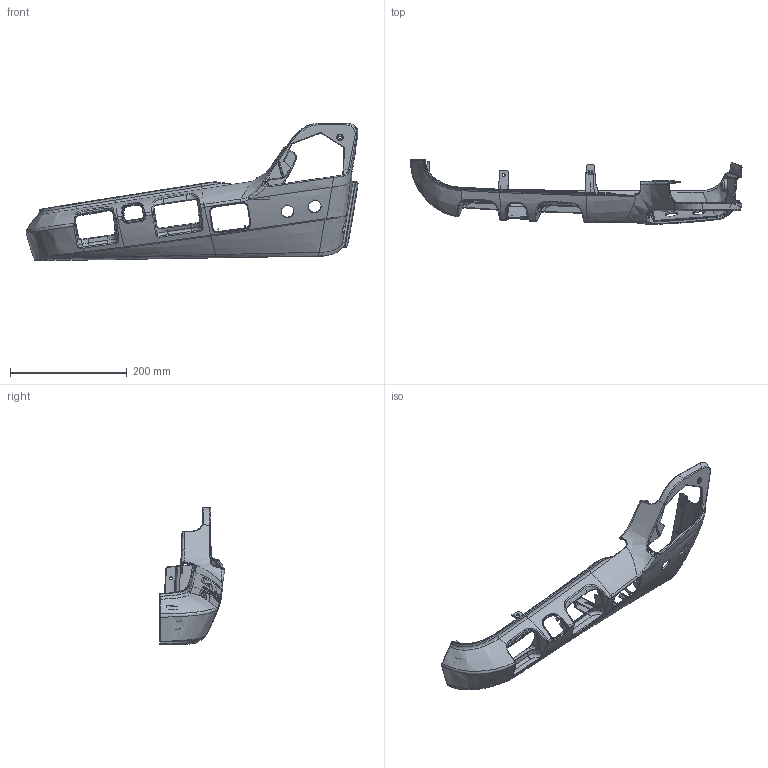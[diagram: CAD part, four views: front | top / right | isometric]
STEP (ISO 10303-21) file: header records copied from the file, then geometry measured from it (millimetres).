
FILE_DESCRIPTION(('CATIA V5 STEP Exchange','CAx-IF Rec.Pracs.--- Model Styling and Organization---1.4--- 2014-01-23'),'2;1');
FILE_NAME('C:\Users\luhaitao\Desktop\塑料件平台项目\样件清单2\10.stp','2025-06-13T03:55:15+00:00',('none'),('none'),'CATIA Version 5-6 Release 2017','CATIA V5 STEP AP214','none');
FILE_SCHEMA(('AUTOMOTIVE_DESIGN { 1 0 10303 214 1 1 1 1 }'));
Products named in the file (1): 10
Bounding box: 569.78 x 112.21 x 235.72 mm (x, y, z)
Volume: 292312.8 mm3; surface area: 226080.3 mm2
Topology: 1 solids, 1 shells, 1426 faces, 3983 edges, 2542 vertices
Faces by surface type: bspline 933, plane 304, cylinder 84, extrusion 59, torus 27, sphere 13, cone 6
Entity records: 152989 total; most frequent: CARTESIAN_POINT 125958, ORIENTED_EDGE 7924, EDGE_CURVE 3962, B_SPLINE_CURVE_WITH_KNOTS 3105, VERTEX_POINT 2542, DIRECTION 1658, EDGE_LOOP 1462, ADVANCED_FACE 1426
